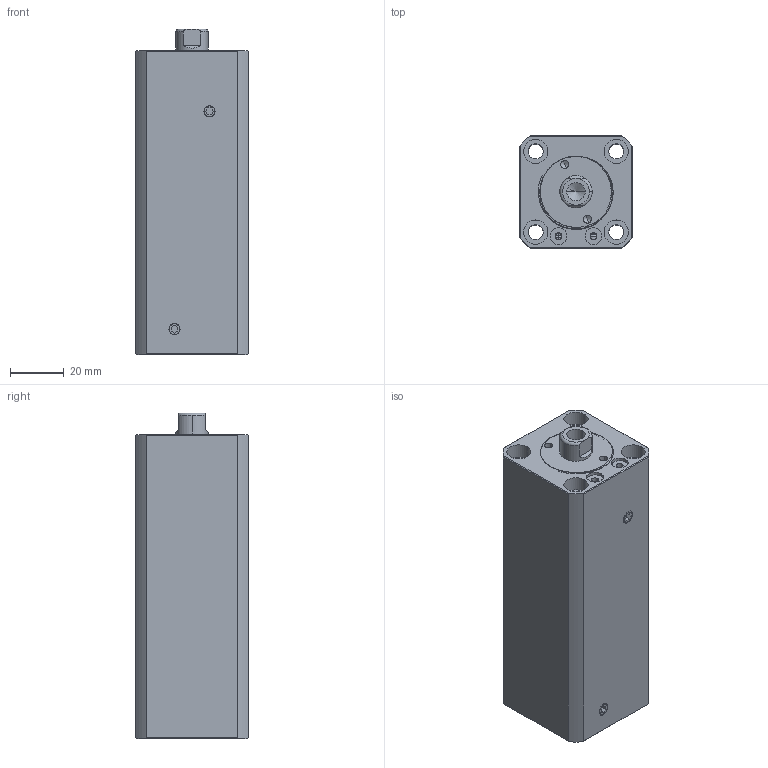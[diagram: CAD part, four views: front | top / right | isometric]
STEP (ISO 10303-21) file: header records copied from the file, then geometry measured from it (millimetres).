
FILE_DESCRIPTION (( 'STEP AP214' ), '1' );
FILE_NAME ('chtb-sdma20x70n_asm.STEP', '2018-05-18T06:29:35', ( '' ), ( '' ), 'SwSTEP 2.0', 'SolidWorks 2016', '' );
FILE_SCHEMA (( 'AUTOMOTIVE_DESIGN' ));
Length unit declared in the file: millimetre
Products named in the file (5): socket set screw flat point_iso_ISO 4026 - M5 x 5-N; QG_3; CHTB-SDMA20X70NHSG; CHTB-SDMA20X70NBT; chtb-sdma20x70n_asm
Assembly tree (5 placements, depth 2):
  chtb-sdma20x70n_asm
    CHTB-SDMA20X70NBT
    CHTB-SDMA20X70NHSG
    QG_3
    socket set screw flat point_iso_ISO 4026 - M5 x 5-N  x2
Bounding box: 42 x 42 x 121 mm (x, y, z)
Volume: 167088.6 mm3; surface area: 48450.3 mm2
Topology: 5 solids, 5 shells, 232 faces, 602 edges, 396 vertices
Faces by surface type: cylinder 111, plane 61, torus 25, bspline 21, cone 14
Entity records: 12042 total; most frequent: CARTESIAN_POINT 6742, ORIENTED_EDGE 1128, DIRECTION 1000, EDGE_CURVE 564, AXIS2_PLACEMENT_3D 415, VERTEX_POINT 376, EDGE_LOOP 256, ADVANCED_FACE 217
